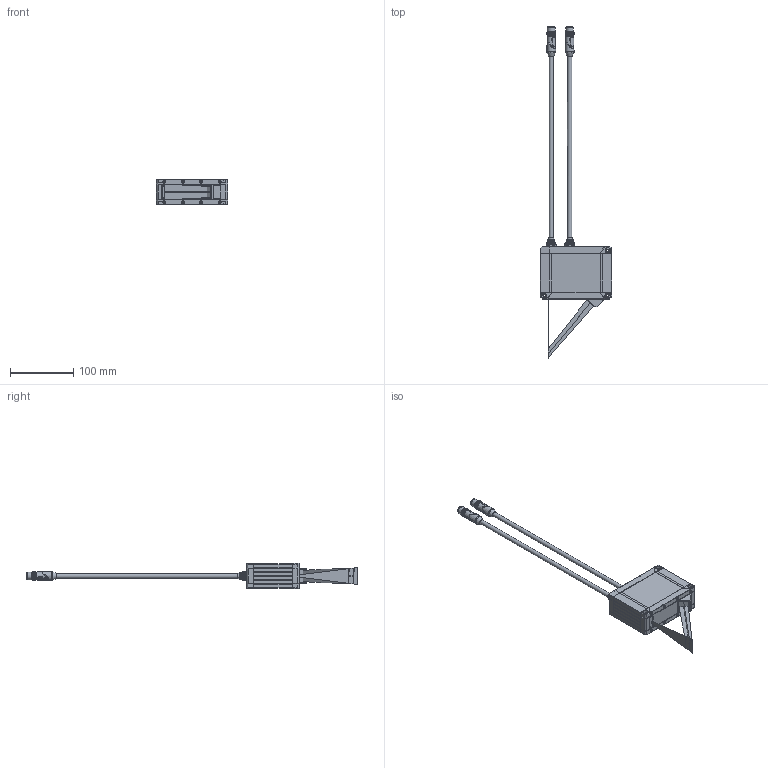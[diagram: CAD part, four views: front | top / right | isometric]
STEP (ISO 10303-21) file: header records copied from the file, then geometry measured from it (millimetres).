
FILE_DESCRIPTION (( 'STEP AP214' ), '1' );
FILE_NAME ('LLT30xx-25-PT.STEP', '2026-07-22T08:13:28', ( '' ), ( '' ), 'SwSTEP 2.0', 'SolidWorks 2024', '' );
FILE_SCHEMA (( 'AUTOMOTIVE_DESIGN' ));
Length unit declared in the file: millimetre
Products named in the file (1): LLT30xx-25-PT
Bounding box: 112 x 523 x 40 mm (x, y, z)
Volume: 395601.4 mm3; surface area: 70229.7 mm2
Topology: 3 solids, 10 shells, 3861 faces, 8673 edges, 4931 vertices
Faces by surface type: plane 2117, cone 940, cylinder 488, bspline 288, torus 28
Full cylindrical faces by diameter (mm): 0.6 x8, 0.7 x12, 2.4 x3, 3.8 x16, 4.2 x3, 4.4 x16, 6.8 x4, 8 x4, 8.35 x2, 8.4 x4, 9.2 x2, 9.4 x2, 9.5 x2, 10.5 x2, 10.7 x2, 11.2 x2, 12 x2, 13 x2, 13.5 x2, 15 x2
Entity records: 160180 total; most frequent: CARTESIAN_POINT 39609, ORIENTED_EDGE 16810, DIRECTION 14569, EDGE_CURVE 8405, AXIS2_PLACEMENT_3D 5472, VERTEX_POINT 4869, EDGE_LOOP 4184, FACE_OUTER_BOUND 3983
